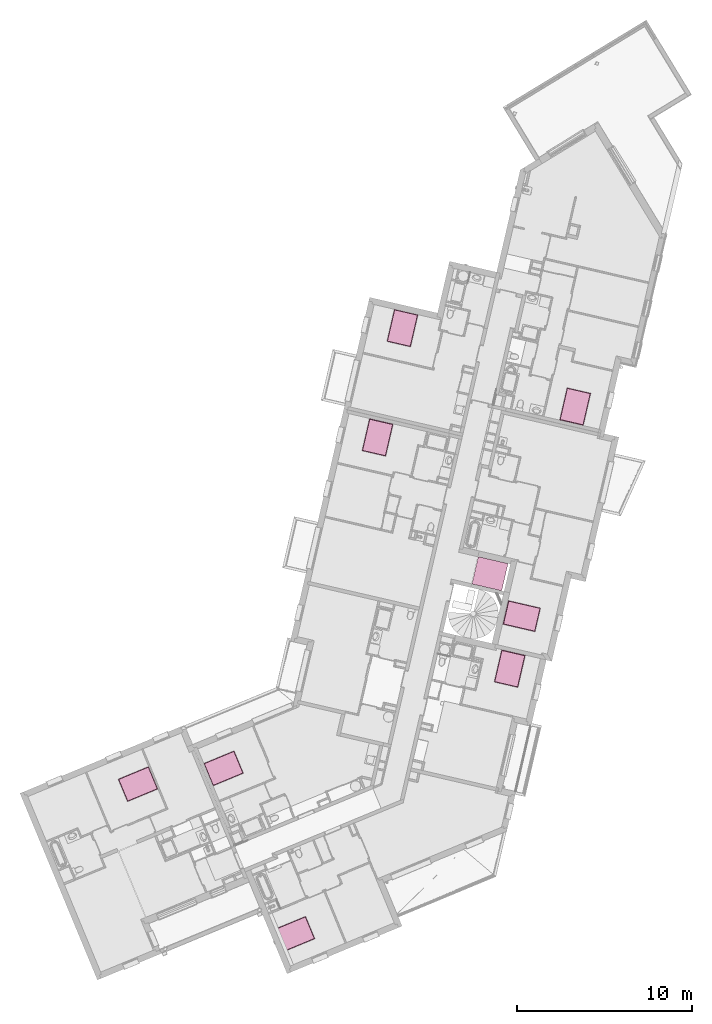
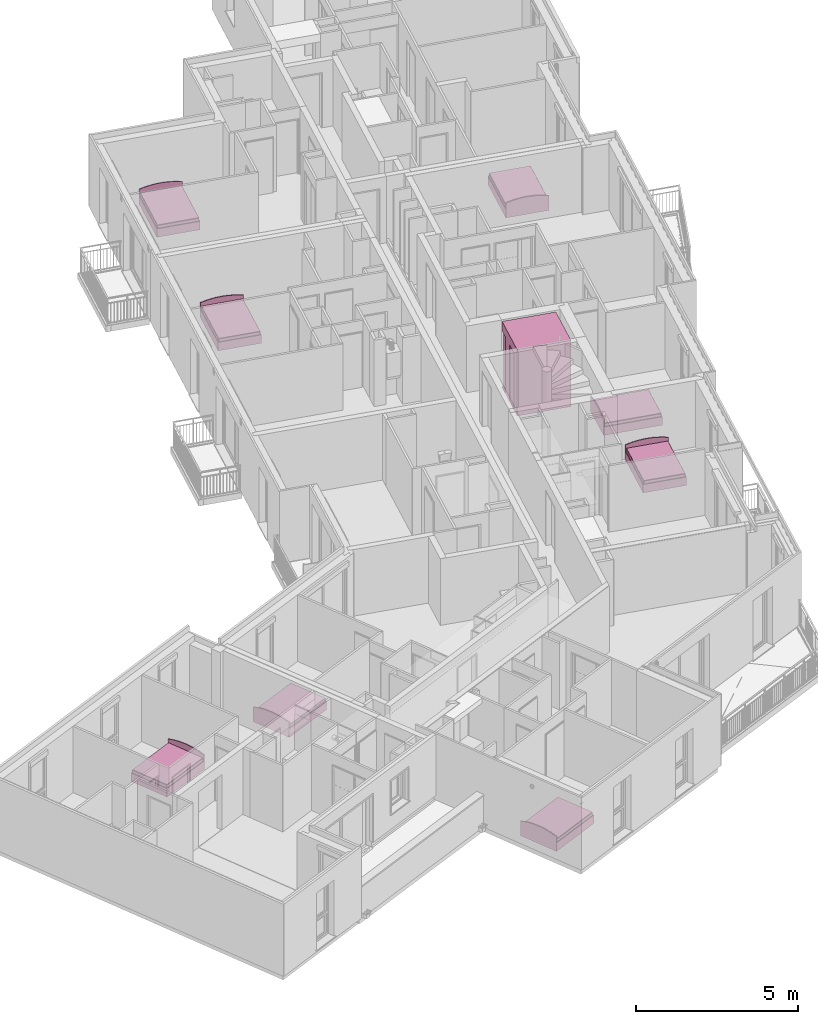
# One storey, part 84 of 91: 8 furnishings, 1 transport element.
"""IFC2X3 building model written with IfcOpenShell, lengths in metres."""

import ifcopenshell
import ifcopenshell.guid

model = None  # the IFC model being written
_history = None  # IfcOwnerHistory: only IFC2X3 demands one
_inside = {}  # id of a spatial element -> (the spatial element, [elements in it])
_under = {}  # id of a project, library or spatial element -> (it, [spatial elements below it])
_declared = {}  # id of a project -> (the project, [libraries it declares])
_typed = {}  # id of a type object -> (the type object, [elements of that type])
_made_of = {}  # id of a material, layer set ... -> (it, [elements and type objects made of it])


def new_model(schema):
    """Start an empty IFC model of exactly this schema.

    Asked for "IFC4X3", IfcOpenShell would pick the latest addendum, in which some entities
    have other attributes; the version numbers below select the first issue.
    IFC2X3 requires an IfcOwnerHistory on every rooted entity: one is made here for all.
    """
    global model, _history
    if schema == "IFC4X3":
        model = ifcopenshell.file(schema_version=(4, 3, 0, 0))
    else:
        model = ifcopenshell.file(schema=schema)
    _inside.clear()
    _under.clear()
    _declared.clear()
    _typed.clear()
    _made_of.clear()
    _history = None
    if model.schema == "IFC2X3":
        org = make("IfcOrganization", Name="unknown")
        user = make(
            "IfcPersonAndOrganization",
            ThePerson=make("IfcPerson", FamilyName="unknown"),
            TheOrganization=org,
        )
        app = make(
            "IfcApplication",
            ApplicationDeveloper=org,
            Version="unknown",
            ApplicationFullName="unknown",
            ApplicationIdentifier="unknown",
        )
        _history = make(
            "IfcOwnerHistory",
            OwningUser=user,
            OwningApplication=app,
            ChangeAction="ADDED",
            CreationDate=0,
        )
    return model


def make(cls, **values):
    """One entity of the class cls with the attributes given. An attribute that is None is left unset."""
    return model.create_entity(
        cls, **{name: value for name, value in values.items() if value is not None}
    )


def entity(cls, *values):
    """Any entity or typed value of the class cls, its attributes in the order of the schema. None: left unset."""
    e = model.create_entity(cls)
    for i, value in enumerate(values):
        if value is not None:
            e[i] = value
    return e


def rooted(cls, **values):
    """An entity with a GlobalId (a new one), such as an element, a storey or a relation."""
    return make(cls, GlobalId=ifcopenshell.guid.new(), OwnerHistory=_history, **values)


def si_unit(unit_type, name, prefix=None):
    """IfcSIUnit, for example si_unit("LENGTHUNIT", "METRE", prefix="MILLI")."""
    return make("IfcSIUnit", UnitType=unit_type, Prefix=prefix, Name=name)


def converted_unit(unit_type, name, factor, base, dimensions=None, offset=None):
    """IfcConversionBasedUnit, such as the inch: factor (a typed value) times the base unit."""
    return make(
        "IfcConversionBasedUnit"
        if offset is None
        else "IfcConversionBasedUnitWithOffset",
        ConversionOffset=offset,
        Dimensions=None
        if dimensions is None
        else entity("IfcDimensionalExponents", *dimensions),
        UnitType=unit_type,
        Name=name,
        ConversionFactor=make(
            "IfcMeasureWithUnit", ValueComponent=factor, UnitComponent=base
        ),
    )


def derived_unit(unit_type, elements):
    """IfcDerivedUnit: a product of units, each with its exponent."""
    return make(
        "IfcDerivedUnit",
        Elements=[
            make("IfcDerivedUnitElement", Unit=unit, Exponent=power)
            for unit, power in elements
        ],
        UnitType=unit_type,
    )


def money_unit(currency):
    """IfcMonetaryUnit."""
    return make("IfcMonetaryUnit", Currency=currency)


def assignment(units):
    """IfcUnitAssignment: the units of a project."""
    return None if units is None else make("IfcUnitAssignment", Units=units)


def point(xyz):
    """IfcCartesianPoint."""
    return None if xyz is None else make("IfcCartesianPoint", Coordinates=xyz)


def direction(xyz):
    """IfcDirection."""
    return None if xyz is None else make("IfcDirection", DirectionRatios=xyz)


def frame(location, z_axis=None, x_axis=None):
    """IfcAxis2Placement3D, a coordinate frame: its origin and axes. An axis left out is left unset."""
    return make(
        "IfcAxis2Placement3D",
        Location=point(location),
        Axis=direction(z_axis),
        RefDirection=direction(x_axis),
    )


def origin_with_axes():
    """The frame at (0, 0, 0) with the z axis (0, 0, 1) and the x axis (1, 0, 0) written out."""
    return frame((0.0, 0.0, 0.0), z_axis=(0.0, 0.0, 1.0), x_axis=(1.0, 0.0, 0.0))


def place(relative_to, where):
    """IfcLocalPlacement: puts the frame where relative to a parent placement (None: the world)."""
    return make(
        "IfcLocalPlacement", PlacementRelTo=relative_to, RelativePlacement=where
    )


def context(
    kind, dimensions, precision=None, world=None, true_north=None, identifier=None
):
    """IfcGeometricRepresentationContext, for example the 3D "Model" context."""
    return make(
        "IfcGeometricRepresentationContext",
        ContextIdentifier=identifier,
        ContextType=kind,
        CoordinateSpaceDimension=dimensions,
        Precision=precision,
        WorldCoordinateSystem=world,
        TrueNorth=true_north,
    )


def subcontext(parent, identifier, kind, view, scale=None):
    """IfcGeometricRepresentationSubContext, for example "Body" below "Model"."""
    return make(
        "IfcGeometricRepresentationSubContext",
        ContextIdentifier=identifier,
        ContextType=kind,
        ParentContext=parent,
        TargetScale=scale,
        TargetView=view,
    )


def project(units=None, contexts=None):
    """IfcProject with its units and contexts."""
    return rooted(
        "IfcProject",
        Name="project",
        RepresentationContexts=contexts,
        UnitsInContext=assignment(units),
    )


def spatial(cls, under=None, at=None, **own):
    """A site, building, storey or space (cls), placed at a placement, below another one or the project."""
    s = rooted(cls, ObjectPlacement=at, **own)
    if under is not None:
        _under.setdefault(under.id(), (under, []))[1].append(s)
    return s


def faces_of(points, faces, orient=None, outer=None):
    """IfcFace entities. A face is a list of loops; a loop is a list of indices into points, from 0.

    orient and outer hold one flag for each loop. By default every Orientation is true, the
    first loop of a face is its IfcFaceOuterBound and the others are IfcFaceBound.
    """
    made = []
    for i, loops in enumerate(faces):
        bounds = []
        for j, loop in enumerate(loops):
            is_outer = j == 0 if outer is None else outer[i][j]
            bounds.append(
                make(
                    "IfcFaceOuterBound" if is_outer else "IfcFaceBound",
                    Bound=make("IfcPolyLoop", Polygon=[points[k] for k in loop]),
                    Orientation=True if orient is None else orient[i][j],
                )
            )
        made.append(make("IfcFace", Bounds=bounds))
    return made


def faceted_brep(points, faces, orient=None, outer=None, voids=None):
    """IfcFacetedBrep: a solid bounded by flat faces; with voids (closed shells), ...WithVoids."""
    shared = [point(p) for p in points]
    hull = make("IfcClosedShell", CfsFaces=faces_of(shared, faces, orient, outer))
    if voids is None:
        return make("IfcFacetedBrep", Outer=hull)
    return make(
        "IfcFacetedBrepWithVoids",
        Outer=hull,
        Voids=[
            make(cls, CfsFaces=faces_of(shared, fs, o, b)) for cls, fs, o, b in voids
        ],
    )


def shape(context_of_items, identifier, shape_type, items):
    """IfcShapeRepresentation: the items that make up one representation, for example the "Body"."""
    return make(
        "IfcShapeRepresentation",
        ContextOfItems=context_of_items,
        RepresentationIdentifier=identifier,
        RepresentationType=shape_type,
        Items=items,
    )


def source(mapping_origin, context_of_items, identifier, shape_type, items):
    """IfcRepresentationMap: a shape defined once, which mapped items show again and again."""
    return make(
        "IfcRepresentationMap",
        MappingOrigin=mapping_origin,
        MappedRepresentation=shape(context_of_items, identifier, shape_type, items),
    )


def transform(
    local_origin,
    x_axis=None,
    y_axis=None,
    z_axis=None,
    scale=None,
    scale2=None,
    scale3=None,
    uniform=True,
):
    """IfcCartesianTransformationOperator3D, or its non-uniform kind. x_axis, y_axis, z_axis: its Axis1, 2, 3."""
    if uniform:
        return make(
            "IfcCartesianTransformationOperator3D",
            Axis1=direction(x_axis),
            Axis2=direction(y_axis),
            LocalOrigin=point(local_origin),
            Scale=scale,
            Axis3=direction(z_axis),
        )
    return make(
        "IfcCartesianTransformationOperator3DnonUniform",
        Axis1=direction(x_axis),
        Axis2=direction(y_axis),
        LocalOrigin=point(local_origin),
        Scale=scale,
        Axis3=direction(z_axis),
        Scale2=scale2,
        Scale3=scale3,
    )


def mapped(mapping_source, mapping_target):
    """IfcMappedItem: shows the shape of a source again, moved by a transform."""
    return make(
        "IfcMappedItem", MappingSource=mapping_source, MappingTarget=mapping_target
    )


def made_of(thing, what):
    """Note that an element or type object is made of a material, layer set ...; save() writes the relation."""
    if what is not None:
        _made_of.setdefault(what.id(), (what, []))[1].append(thing)
    return thing


def type_object(cls, material=None, **own):
    """A type object (cls), such as IfcWallType, which elements share."""
    return made_of(rooted(cls, **own), material)


def element(
    cls,
    number,
    at=None,
    inside=None,
    cuts=None,
    type_object=None,
    material=None,
    context=None,
    identifier="Body",
    shape_type=None,
    held_by="IfcProductDefinitionShape",
    body=None,
    shapes=None,
    **own,
):
    """One element of the class cls, such as IfcWall. Its Tag is "e" and its number.

    at: its placement. inside: the storey or other place that contains it. cuts: it is an
    opening in that element (IfcRelVoidsElement). A single representation is given by context,
    identifier, shape_type and body (its items); several are given by shapes. held_by: the class
    of the entity that holds the representations. save() writes the other relations.
    """
    e = rooted(cls, Tag="e%d" % number, ObjectPlacement=at, **own)
    if body is not None:
        shapes = [shape(context, identifier, shape_type, body)]
    if shapes is not None:
        e.Representation = make(held_by, Representations=shapes)
    if inside is not None:
        _inside.setdefault(inside.id(), (inside, []))[1].append(e)
    if cuts is not None:
        rooted(
            "IfcRelVoidsElement", RelatingBuildingElement=cuts, RelatedOpeningElement=e
        )
    if type_object is not None:
        _typed.setdefault(type_object.id(), (type_object, []))[1].append(e)
    return made_of(e, material)


def aggregate(whole, parts):
    """IfcRelAggregates: a whole, such as a stair, and the parts it consists of."""
    return rooted("IfcRelAggregates", RelatingObject=whole, RelatedObjects=parts)


def save(model, path):
    """Write the relations noted so far, then the file.

    IfcRelAggregates (storeys below a building ...), IfcRelContainedInSpatialStructure (elements
    in a storey), IfcRelDefinesByType, IfcRelAssociatesMaterial and IfcRelDeclares: one each for
    every whole, place, type object, material and project.
    """
    for whole, parts in _under.values():
        aggregate(whole, parts)
    for where, things in _inside.values():
        rooted(
            "IfcRelContainedInSpatialStructure",
            RelatedElements=things,
            RelatingStructure=where,
        )
    for kind, things in _typed.values():
        rooted("IfcRelDefinesByType", RelatedObjects=things, RelatingType=kind)
    for what, things in _made_of.values():
        rooted("IfcRelAssociatesMaterial", RelatedObjects=things, RelatingMaterial=what)
    for by, libraries in _declared.values():
        rooted("IfcRelDeclares", RelatingContext=by, RelatedDefinitions=libraries)
    model.write(path)


model = new_model("IFC2X3")

# Units and contexts
model_context = context("Model", 3, precision=1e-05, world=origin_with_axes(), true_north=direction((0.0, 1.0)))
body_context = subcontext(model_context, "Body", "Model", "MODEL_VIEW")
ifc_project = project(units=[si_unit("LENGTHUNIT", "METRE"), si_unit("AREAUNIT", "SQUARE_METRE"), si_unit("VOLUMEUNIT", "CUBIC_METRE"), converted_unit("PLANEANGLEUNIT", "DEGREE", entity("IfcPlaneAngleMeasure", 0.0174532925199), si_unit("PLANEANGLEUNIT", "RADIAN"), dimensions=[0, 0, 0, 0, 0, 0, 0]), si_unit("SOLIDANGLEUNIT", "STERADIAN"), money_unit("EUR"), converted_unit("TIMEUNIT", "Year", entity("IfcTimeMeasure", 31556926.0), si_unit("TIMEUNIT", "SECOND"), dimensions=[0, 0, 1, 0, 0, 0, 0]), si_unit("MASSUNIT", "GRAM", prefix="KILO"), si_unit("THERMODYNAMICTEMPERATUREUNIT", "DEGREE_CELSIUS"), si_unit("LUMINOUSINTENSITYUNIT", "LUMEN"), si_unit("ENERGYUNIT", "JOULE", prefix="MEGA"), derived_unit("THERMALCONDUCTANCEUNIT", [(si_unit("POWERUNIT", "WATT"), 1), (si_unit("LENGTHUNIT", "METRE"), -1), (si_unit("THERMODYNAMICTEMPERATUREUNIT", "KELVIN"), -1)]), derived_unit("SPECIFICHEATCAPACITYUNIT", [(si_unit("ENERGYUNIT", "JOULE"), 1), (si_unit("MASSUNIT", "GRAM", prefix="KILO"), -1), (si_unit("THERMODYNAMICTEMPERATUREUNIT", "KELVIN"), -1)]), derived_unit("MASSDENSITYUNIT", [(si_unit("MASSUNIT", "GRAM", prefix="KILO"), 1), (si_unit("VOLUMEUNIT", "CUBIC_METRE"), -1)])], contexts=[model_context])

# Site, building, storey
site_placement = place(None, origin_with_axes())
site = spatial("IfcSite", under=ifc_project, at=site_placement, Name="Site", CompositionType="ELEMENT")
building_placement = place(site_placement, origin_with_axes())
building = spatial("IfcBuilding", under=site, at=building_placement, Name="Bâtiment", CompositionType="ELEMENT")
storey_placement = place(building_placement, frame((0.0, 0.0, 5.44), z_axis=(0.0, 0.0, 1.0), x_axis=(1.0, 0.0, 0.0)))
storey = spatial("IfcBuildingStorey", under=building, at=storey_placement, Name="R+2", CompositionType="ELEMENT", Elevation=5.44)

# Furnishings
furniture_type = type_object("IfcFurnitureType", Name="Lit double 23", AssemblyPlace="NOTDEFINED")
shared_shape_1 = source(origin_with_axes(), body_context, "Body", "Brep", [
    faceted_brep([(0.0, 1.9, 0.0), (1.4, 1.9, 0.0), (1.4, 1.87, 0.0), (0.0, 1.87, 0.0), (0.0, 1.9, 0.56), (0.229826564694, 1.9, 0.615389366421), (0.463857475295, 1.9, 0.64882235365), (0.7, 1.9, 0.66), (0.936142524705, 1.9, 0.64882235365), (1.17017343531, 1.9, 0.615389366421), (1.4, 1.9, 0.56), (1.4, 1.9, 0.5599), (1.4, 1.87, 0.5599), (1.4, 1.87, 0.56), (1.17017343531, 1.87, 0.615389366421), (0.936142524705, 1.87, 0.64882235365), (0.7, 1.87, 0.66), (0.463857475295, 1.87, 0.64882235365), (0.229826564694, 1.87, 0.615389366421), (0.0, 1.87, 0.56)], [[[0, 1, 2, 3]], [[0, 4, 5, 6, 7, 8, 9, 10, 11, 1]], [[1, 11, 12, 2]], [[3, 2, 12, 13, 14, 15, 16, 17, 18, 19]], [[4, 0, 3, 19]], [[5, 4, 19, 18]], [[6, 5, 18, 17]], [[7, 6, 17, 16]], [[8, 7, 16, 15]], [[9, 8, 15, 14]], [[10, 9, 14, 13]], [[11, 10, 13, 12]]]),
    faceted_brep([(1.4, 0.0, 0.0), (0.0, 0.0, 0.0), (0.0, 1.87, 0.0), (1.4, 1.87, 0.0), (1.4, 0.0, 0.32), (0.0, 0.0, 0.32), (0.0, 1.87, 0.32), (1.4, 1.87, 0.32)], [[[0, 1, 2, 3]], [[1, 0, 4, 5]], [[2, 1, 5, 6]], [[3, 2, 6, 7]], [[0, 3, 7, 4]], [[5, 4, 7, 6]]]),
    faceted_brep([(0.02, 0.04, 0.35), (0.02, 1.85, 0.35), (0.0215224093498, 1.85765366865, 0.35), (0.0258578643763, 1.86414213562, 0.35), (0.0323463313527, 1.86847759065, 0.35), (0.04, 1.87, 0.35), (1.36, 1.87, 0.35), (1.36765366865, 1.86847759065, 0.35), (1.37414213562, 1.86414213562, 0.35), (1.37847759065, 1.85765366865, 0.35), (1.38, 1.85, 0.35), (1.38, 0.04, 0.35), (1.37847759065, 0.0323463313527, 0.35), (1.37414213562, 0.0258578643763, 0.35), (1.36765366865, 0.0215224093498, 0.35), (1.36, 0.02, 0.35), (0.04, 0.02, 0.35), (0.0323463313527, 0.0215224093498, 0.35), (0.0258578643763, 0.0258578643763, 0.35), (0.0215224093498, 0.0323463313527, 0.35), (0.0199999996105, 0.0400000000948, 0.42), (0.0199999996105, 1.84999999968, 0.42), (0.0215224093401, 1.85765366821, 0.42), (0.0258578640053, 1.86414213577, 0.42), (0.0323463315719, 1.86847759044, 0.42), (0.0400000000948, 1.87000000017, 0.42), (1.36000000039, 1.87000000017, 0.42), (1.36765366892, 1.86847759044, 0.42), (1.37414213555, 1.86414213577, 0.42), (1.37847759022, 1.85765366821, 0.42), (1.37999999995, 1.84999999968, 0.42), (1.37999999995, 0.0400000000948, 0.42), (1.37847759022, 0.0323463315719, 0.42), (1.37414213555, 0.0258578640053, 0.42), (1.36765366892, 0.0215224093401, 0.42), (1.36000000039, 0.0199999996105, 0.42), (0.0400000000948, 0.0199999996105, 0.42), (0.0323463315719, 0.0215224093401, 0.42), (0.0258578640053, 0.0258578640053, 0.42), (0.0215224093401, 0.0323463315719, 0.42), (0.0215224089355, 0.0401499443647, 0.427653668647), (0.0215224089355, 1.84985005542, 0.427653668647), (0.0229564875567, 1.85705965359, 0.427653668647), (0.0269554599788, 1.8630445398, 0.427653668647), (0.0329403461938, 1.86704351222, 0.427653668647), (0.0401499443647, 1.86847759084, 0.427653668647), (1.35985005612, 1.86847759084, 0.427653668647), (1.36705965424, 1.86704351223, 0.427653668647), (1.37304453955, 1.86304453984, 0.427653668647), (1.377043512, 1.85705965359, 0.427653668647), (1.37847759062, 1.84985005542, 0.427653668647), (1.37847759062, 0.0401499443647, 0.427653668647), (1.377043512, 0.0329403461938, 0.427653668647), (1.37304453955, 0.0269554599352, 0.427653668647), (1.36705965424, 0.0229564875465, 0.427653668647), (1.35985005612, 0.0215224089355, 0.427653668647), (0.0401499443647, 0.0215224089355, 0.427653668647), (0.0329403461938, 0.0229564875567, 0.427653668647), (0.0269554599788, 0.0269554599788, 0.427653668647), (0.0229564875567, 0.0329403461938, 0.427653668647), (0.0323463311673, 0.0412160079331, 0.43847759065), (0.0323463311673, 1.84878399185, 0.43847759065), (0.0331523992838, 1.85283636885, 0.43847759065), (0.0347590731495, 1.85524092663, 0.43847759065), (0.0371636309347, 1.8568476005, 0.43847759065), (0.0412160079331, 1.85765366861, 0.43847759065), (1.35878399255, 1.85765366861, 0.43847759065), (1.36283636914, 1.85684760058, 0.43847759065), (1.36524092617, 1.85524092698, 0.43847759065), (1.36684760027, 1.85283636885, 0.43847759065), (1.36765366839, 1.84878399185, 0.43847759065), (1.36765366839, 0.0412160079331, 0.43847759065), (1.36684760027, 0.0371636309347, 0.43847759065), (1.36524092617, 0.0347590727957, 0.43847759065), (1.36283636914, 0.0331523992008, 0.43847759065), (1.35878399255, 0.0323463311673, 0.43847759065), (0.0412160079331, 0.0323463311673, 0.43847759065), (0.0371636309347, 0.0331523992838, 0.43847759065), (0.0347590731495, 0.0347590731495, 0.43847759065), (0.0331523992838, 0.0371636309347, 0.43847759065), (0.0400000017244, 0.0419698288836, 0.44000000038), (0.0400000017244, 1.8480301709, 0.44000000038), (0.0403268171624, 1.84967318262, 0.44000000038), (0.0399999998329, 1.84999999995, 0.439923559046), (0.0419698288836, 1.84999999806, 0.44000000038), (1.3580301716, 1.84999999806, 0.44000000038), (1.35967318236, 1.84967318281, 0.44000000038), (1.35999999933, 1.84999999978, 0.439923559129), (1.35999999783, 1.8480301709, 0.44000000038), (1.35999999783, 0.0419698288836, 0.44000000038), (1.35967318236, 0.0403268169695, 0.44000000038), (1.35999999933, 0.0399999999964, 0.439923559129), (1.3580301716, 0.0400000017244, 0.44000000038), (0.0419698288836, 0.0400000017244, 0.44000000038), (0.0403268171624, 0.0403268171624, 0.44000000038), (0.0399999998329, 0.0399999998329, 0.439923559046)], [[[0, 1, 2, 3, 4, 5, 6, 7, 8, 9, 10, 11, 12, 13, 14, 15, 16, 17, 18, 19]], [[1, 0, 20, 21]], [[2, 1, 21, 22]], [[3, 2, 22, 23]], [[4, 3, 23, 24]], [[5, 4, 24, 25]], [[6, 5, 25, 26]], [[7, 6, 26, 27]], [[8, 7, 27, 28]], [[9, 8, 28, 29]], [[10, 9, 29, 30]], [[11, 10, 30, 31]], [[12, 11, 31, 32]], [[13, 12, 32, 33]], [[14, 13, 33, 34]], [[15, 14, 34, 35]], [[16, 15, 35, 36]], [[17, 16, 36, 37]], [[18, 17, 37, 38]], [[19, 18, 38, 39]], [[0, 19, 39, 20]], [[21, 20, 40, 41]], [[22, 21, 41, 42]], [[23, 22, 42, 43]], [[24, 23, 43, 44]], [[25, 24, 44, 45]], [[26, 25, 45, 46]], [[27, 26, 46, 47]], [[28, 27, 47, 48]], [[29, 28, 48, 49]], [[30, 29, 49, 50]], [[31, 30, 50, 51]], [[32, 31, 51, 52]], [[33, 32, 52, 53]], [[34, 33, 53, 54]], [[35, 34, 54, 55]], [[36, 35, 55, 56]], [[37, 36, 56, 57]], [[38, 37, 57, 58]], [[39, 38, 58, 59]], [[20, 39, 59, 40]], [[41, 40, 60, 61]], [[42, 41, 61, 62]], [[43, 42, 62, 63]], [[44, 43, 63, 64]], [[45, 44, 64, 65]], [[46, 45, 65, 66]], [[47, 46, 66, 67]], [[48, 47, 67, 68]], [[49, 48, 68, 69]], [[50, 49, 69, 70]], [[51, 50, 70, 71]], [[52, 51, 71, 72]], [[53, 52, 72, 73]], [[54, 53, 73, 74]], [[55, 54, 74, 75]], [[56, 55, 75, 76]], [[57, 56, 76, 77]], [[58, 57, 77, 78]], [[59, 58, 78, 79]], [[40, 59, 79, 60]], [[61, 60, 80, 81]], [[62, 61, 81, 82, 83]], [[63, 62, 83]], [[64, 63, 83]], [[65, 64, 83, 82, 84]], [[66, 65, 84, 85]], [[67, 66, 85, 86, 87]], [[68, 67, 87]], [[69, 68, 87]], [[70, 69, 87, 86, 88]], [[71, 70, 88, 89]], [[72, 71, 89, 90, 91]], [[73, 72, 91]], [[74, 73, 91]], [[75, 74, 91, 90, 92]], [[76, 75, 92, 93]], [[77, 76, 93, 94, 95]], [[78, 77, 95]], [[79, 78, 95]], [[60, 79, 95, 94, 80]], [[81, 80, 94, 93, 92, 90, 89, 88, 86, 85, 84, 82]]]),
    faceted_brep([(0.02, 0.04, 0.35), (0.0215224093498, 0.0323463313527, 0.35), (0.0258578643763, 0.0258578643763, 0.35), (0.0323463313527, 0.0215224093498, 0.35), (0.04, 0.02, 0.35), (1.36, 0.02, 0.35), (1.36765366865, 0.0215224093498, 0.35), (1.37414213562, 0.0258578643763, 0.35), (1.37847759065, 0.0323463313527, 0.35), (1.38, 0.04, 0.35), (1.38, 1.85, 0.35), (1.37847759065, 1.85765366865, 0.35), (1.37414213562, 1.86414213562, 0.35), (1.36765366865, 1.86847759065, 0.35), (1.36, 1.87, 0.35), (0.04, 1.87, 0.35), (0.0323463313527, 1.86847759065, 0.35), (0.0258578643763, 1.86414213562, 0.35), (0.0215224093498, 1.85765366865, 0.35), (0.02, 1.85, 0.35), (0.0199999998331, 0.0400000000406, 0.32), (0.0215224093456, 0.0323463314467, 0.32), (0.0258578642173, 0.0258578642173, 0.32), (0.0323463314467, 0.0215224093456, 0.32), (0.0400000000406, 0.0199999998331, 0.32), (1.36000000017, 0.0199999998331, 0.32), (1.36765366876, 0.0215224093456, 0.32), (1.37414213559, 0.0258578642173, 0.32), (1.37847759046, 0.0323463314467, 0.32), (1.37999999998, 0.0400000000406, 0.32), (1.37999999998, 1.84999999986, 0.32), (1.37847759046, 1.85765366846, 0.32), (1.37414213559, 1.86414213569, 0.32), (1.36765366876, 1.86847759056, 0.32), (1.36000000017, 1.87000000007, 0.32), (0.0400000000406, 1.87000000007, 0.32), (0.0323463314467, 1.86847759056, 0.32), (0.0258578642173, 1.86414213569, 0.32), (0.0215224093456, 1.85765366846, 0.32), (0.0199999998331, 1.84999999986, 0.32)], [[[0, 1, 2, 3, 4, 5, 6, 7, 8, 9, 10, 11, 12, 13, 14, 15, 16, 17, 18, 19]], [[0, 20, 21, 1]], [[1, 21, 22, 2]], [[2, 22, 23, 3]], [[3, 23, 24, 4]], [[4, 24, 25, 5]], [[5, 25, 26, 6]], [[6, 26, 27, 7]], [[7, 27, 28, 8]], [[8, 28, 29, 9]], [[9, 29, 30, 10]], [[10, 30, 31, 11]], [[11, 31, 32, 12]], [[12, 32, 33, 13]], [[13, 33, 34, 14]], [[14, 34, 35, 15]], [[15, 35, 36, 16]], [[16, 36, 37, 17]], [[17, 37, 38, 18]], [[18, 38, 39, 19]], [[19, 39, 20, 0]], [[20, 39, 38, 37, 36, 35, 34, 33, 32, 31, 30, 29, 28, 27, 26, 25, 24, 23, 22, 21]]]),
])
for number, where, z_axis, x_axis, name in (
    (1, (-18.5614836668, -26.2425264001, 0.0), (0.0, 0.0, 1.0), (-0.383112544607, 0.923701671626, 0.0), "MOB-002"),
    (2, (-14.4681545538, 7.8483588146, 0.0), (0.0, 0.0, 1.0), (0.974387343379, -0.224876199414, 0.0), "MOB-002"),
    (3, (-6.00214759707, -8.72138199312, 0.0), (0.0, 0.0, 1.0), (0.224876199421, 0.974387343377, 0.0), "MOB-002"),
    (4, (-8.34470960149, -11.5876825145, 0.0), (0.0, 0.0, 1.0), (0.974387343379, -0.224876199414, 0.0), "MOB-002"),
    (5, (-22.6409793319, -16.7982077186, 0.0), (0.0, 0.0, 1.0), (-0.383112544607, 0.923701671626, 0.0), "MOB-002"),
    (6, (-15.8879577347, 1.60742158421, 0.0), (0.0, 0.0, 1.0), (0.974387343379, -0.224876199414, 0.0), "MOB-002"),
):
    element("IfcFurnishingElement", number, at=place(storey_placement, frame(where, z_axis=z_axis, x_axis=x_axis)), inside=storey, type_object=furniture_type, Name=name, ObjectType="BED", context=body_context, shape_type="MappedRepresentation", body=[
        mapped(shared_shape_1, transform((0.0, 0.0, 0.0))),
    ])
shared_shape_2 = source(origin_with_axes(), body_context, "Body", "Brep", [
    faceted_brep([(0.0, 1.9, 0.0), (0.0, 1.87, 0.0), (-1.4, 1.87, 0.0), (-1.4, 1.9, 0.0), (0.0, 1.9, 0.56), (0.0, 1.87, 0.56), (-0.229826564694, 1.87, 0.615389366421), (-0.463857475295, 1.87, 0.64882235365), (-0.7, 1.87, 0.66), (-0.936142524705, 1.87, 0.64882235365), (-1.17017343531, 1.87, 0.615389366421), (-1.4, 1.87, 0.56), (-1.4, 1.87, 0.5599), (-1.4, 1.9, 0.5599), (-1.4, 1.9, 0.56), (-1.17017343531, 1.9, 0.615389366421), (-0.936142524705, 1.9, 0.64882235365), (-0.7, 1.9, 0.66), (-0.463857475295, 1.9, 0.64882235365), (-0.229826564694, 1.9, 0.615389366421)], [[[0, 1, 2, 3]], [[4, 5, 1, 0]], [[1, 5, 6, 7, 8, 9, 10, 11, 12, 2]], [[3, 2, 12, 13]], [[0, 3, 13, 14, 15, 16, 17, 18, 19, 4]], [[19, 6, 5, 4]], [[18, 7, 6, 19]], [[17, 8, 7, 18]], [[16, 9, 8, 17]], [[15, 10, 9, 16]], [[14, 11, 10, 15]], [[13, 12, 11, 14]]]),
    faceted_brep([(-1.4, 0.0, 0.0), (-1.4, 1.87, 0.0), (0.0, 1.87, 0.0), (0.0, 0.0, 0.0), (-1.4, 0.0, 0.32), (-1.4, 1.87, 0.32), (0.0, 1.87, 0.32), (0.0, 0.0, 0.32)], [[[0, 1, 2, 3]], [[0, 4, 5, 1]], [[1, 5, 6, 2]], [[2, 6, 7, 3]], [[3, 7, 4, 0]], [[7, 6, 5, 4]]]),
    faceted_brep([(-0.02, 0.04, 0.35), (-0.0215224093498, 0.0323463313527, 0.35), (-0.0258578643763, 0.0258578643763, 0.35), (-0.0323463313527, 0.0215224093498, 0.35), (-0.04, 0.02, 0.35), (-1.36, 0.02, 0.35), (-1.36765366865, 0.0215224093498, 0.35), (-1.37414213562, 0.0258578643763, 0.35), (-1.37847759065, 0.0323463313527, 0.35), (-1.38, 0.04, 0.35), (-1.38, 1.85, 0.35), (-1.37847759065, 1.85765366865, 0.35), (-1.37414213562, 1.86414213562, 0.35), (-1.36765366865, 1.86847759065, 0.35), (-1.36, 1.87, 0.35), (-0.04, 1.87, 0.35), (-0.0323463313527, 1.86847759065, 0.35), (-0.0258578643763, 1.86414213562, 0.35), (-0.0215224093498, 1.85765366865, 0.35), (-0.02, 1.85, 0.35), (-0.0199999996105, 0.0400000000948, 0.42), (-0.0215224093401, 0.0323463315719, 0.42), (-0.0258578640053, 0.0258578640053, 0.42), (-0.0323463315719, 0.0215224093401, 0.42), (-0.0400000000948, 0.0199999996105, 0.42), (-1.36000000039, 0.0199999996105, 0.42), (-1.36765366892, 0.0215224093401, 0.42), (-1.37414213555, 0.0258578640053, 0.42), (-1.37847759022, 0.0323463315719, 0.42), (-1.37999999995, 0.0400000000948, 0.42), (-1.37999999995, 1.84999999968, 0.42), (-1.37847759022, 1.85765366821, 0.42), (-1.37414213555, 1.86414213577, 0.42), (-1.36765366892, 1.86847759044, 0.42), (-1.36000000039, 1.87000000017, 0.42), (-0.0400000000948, 1.87000000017, 0.42), (-0.0323463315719, 1.86847759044, 0.42), (-0.0258578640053, 1.86414213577, 0.42), (-0.0215224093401, 1.85765366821, 0.42), (-0.0199999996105, 1.84999999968, 0.42), (-0.0215224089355, 0.0401499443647, 0.427653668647), (-0.0229564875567, 0.0329403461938, 0.427653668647), (-0.0269554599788, 0.0269554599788, 0.427653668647), (-0.0329403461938, 0.0229564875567, 0.427653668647), (-0.0401499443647, 0.0215224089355, 0.427653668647), (-1.35985005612, 0.0215224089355, 0.427653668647), (-1.36705965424, 0.0229564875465, 0.427653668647), (-1.37304453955, 0.0269554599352, 0.427653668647), (-1.377043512, 0.0329403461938, 0.427653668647), (-1.37847759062, 0.0401499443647, 0.427653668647), (-1.37847759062, 1.84985005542, 0.427653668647), (-1.377043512, 1.85705965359, 0.427653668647), (-1.37304453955, 1.86304453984, 0.427653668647), (-1.36705965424, 1.86704351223, 0.427653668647), (-1.35985005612, 1.86847759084, 0.427653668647), (-0.0401499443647, 1.86847759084, 0.427653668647), (-0.0329403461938, 1.86704351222, 0.427653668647), (-0.0269554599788, 1.8630445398, 0.427653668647), (-0.0229564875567, 1.85705965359, 0.427653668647), (-0.0215224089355, 1.84985005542, 0.427653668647), (-0.0323463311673, 0.0412160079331, 0.43847759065), (-0.0331523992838, 0.0371636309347, 0.43847759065), (-0.0347590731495, 0.0347590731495, 0.43847759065), (-0.0371636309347, 0.0331523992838, 0.43847759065), (-0.0412160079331, 0.0323463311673, 0.43847759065), (-1.35878399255, 0.0323463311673, 0.43847759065), (-1.36283636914, 0.0331523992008, 0.43847759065), (-1.36524092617, 0.0347590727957, 0.43847759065), (-1.36684760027, 0.0371636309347, 0.43847759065), (-1.36765366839, 0.0412160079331, 0.43847759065), (-1.36765366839, 1.84878399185, 0.43847759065), (-1.36684760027, 1.85283636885, 0.43847759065), (-1.36524092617, 1.85524092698, 0.43847759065), (-1.36283636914, 1.85684760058, 0.43847759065), (-1.35878399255, 1.85765366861, 0.43847759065), (-0.0412160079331, 1.85765366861, 0.43847759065), (-0.0371636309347, 1.8568476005, 0.43847759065), (-0.0347590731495, 1.85524092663, 0.43847759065), (-0.0331523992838, 1.85283636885, 0.43847759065), (-0.0323463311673, 1.84878399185, 0.43847759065), (-0.0400000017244, 0.0419698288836, 0.44000000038), (-0.0403268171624, 0.0403268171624, 0.44000000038), (-0.0399999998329, 0.0399999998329, 0.439923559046), (-0.0419698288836, 0.0400000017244, 0.44000000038), (-1.3580301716, 0.0400000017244, 0.44000000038), (-1.35967318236, 0.0403268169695, 0.44000000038), (-1.35999999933, 0.0399999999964, 0.439923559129), (-1.35999999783, 0.0419698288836, 0.44000000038), (-1.35999999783, 1.8480301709, 0.44000000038), (-1.35967318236, 1.84967318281, 0.44000000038), (-1.35999999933, 1.84999999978, 0.439923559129), (-1.3580301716, 1.84999999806, 0.44000000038), (-0.0419698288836, 1.84999999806, 0.44000000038), (-0.0403268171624, 1.84967318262, 0.44000000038), (-0.0399999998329, 1.84999999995, 0.439923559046), (-0.0400000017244, 1.8480301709, 0.44000000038)], [[[0, 1, 2, 3, 4, 5, 6, 7, 8, 9, 10, 11, 12, 13, 14, 15, 16, 17, 18, 19]], [[0, 20, 21, 1]], [[1, 21, 22, 2]], [[2, 22, 23, 3]], [[3, 23, 24, 4]], [[4, 24, 25, 5]], [[5, 25, 26, 6]], [[6, 26, 27, 7]], [[7, 27, 28, 8]], [[8, 28, 29, 9]], [[9, 29, 30, 10]], [[10, 30, 31, 11]], [[11, 31, 32, 12]], [[12, 32, 33, 13]], [[13, 33, 34, 14]], [[14, 34, 35, 15]], [[15, 35, 36, 16]], [[16, 36, 37, 17]], [[17, 37, 38, 18]], [[18, 38, 39, 19]], [[19, 39, 20, 0]], [[20, 40, 41, 21]], [[21, 41, 42, 22]], [[22, 42, 43, 23]], [[23, 43, 44, 24]], [[24, 44, 45, 25]], [[25, 45, 46, 26]], [[26, 46, 47, 27]], [[27, 47, 48, 28]], [[28, 48, 49, 29]], [[29, 49, 50, 30]], [[30, 50, 51, 31]], [[31, 51, 52, 32]], [[32, 52, 53, 33]], [[33, 53, 54, 34]], [[34, 54, 55, 35]], [[35, 55, 56, 36]], [[36, 56, 57, 37]], [[37, 57, 58, 38]], [[38, 58, 59, 39]], [[39, 59, 40, 20]], [[40, 60, 61, 41]], [[41, 61, 62, 42]], [[42, 62, 63, 43]], [[43, 63, 64, 44]], [[44, 64, 65, 45]], [[45, 65, 66, 46]], [[46, 66, 67, 47]], [[47, 67, 68, 48]], [[48, 68, 69, 49]], [[49, 69, 70, 50]], [[50, 70, 71, 51]], [[51, 71, 72, 52]], [[52, 72, 73, 53]], [[53, 73, 74, 54]], [[54, 74, 75, 55]], [[55, 75, 76, 56]], [[56, 76, 77, 57]], [[57, 77, 78, 58]], [[58, 78, 79, 59]], [[59, 79, 60, 40]], [[60, 80, 81, 82, 61]], [[61, 82, 62]], [[62, 82, 63]], [[63, 82, 81, 83, 64]], [[64, 83, 84, 65]], [[65, 84, 85, 86, 66]], [[66, 86, 67]], [[67, 86, 68]], [[68, 86, 85, 87, 69]], [[69, 87, 88, 70]], [[70, 88, 89, 90, 71]], [[71, 90, 72]], [[72, 90, 73]], [[73, 90, 89, 91, 74]], [[74, 91, 92, 75]], [[75, 92, 93, 94, 76]], [[76, 94, 77]], [[77, 94, 78]], [[78, 94, 93, 95, 79]], [[79, 95, 80, 60]], [[95, 93, 92, 91, 89, 88, 87, 85, 84, 83, 81, 80]]]),
    faceted_brep([(-0.02, 0.04, 0.35), (-0.02, 1.85, 0.35), (-0.0215224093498, 1.85765366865, 0.35), (-0.0258578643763, 1.86414213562, 0.35), (-0.0323463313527, 1.86847759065, 0.35), (-0.04, 1.87, 0.35), (-1.36, 1.87, 0.35), (-1.36765366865, 1.86847759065, 0.35), (-1.37414213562, 1.86414213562, 0.35), (-1.37847759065, 1.85765366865, 0.35), (-1.38, 1.85, 0.35), (-1.38, 0.04, 0.35), (-1.37847759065, 0.0323463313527, 0.35), (-1.37414213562, 0.0258578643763, 0.35), (-1.36765366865, 0.0215224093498, 0.35), (-1.36, 0.02, 0.35), (-0.04, 0.02, 0.35), (-0.0323463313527, 0.0215224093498, 0.35), (-0.0258578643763, 0.0258578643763, 0.35), (-0.0215224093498, 0.0323463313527, 0.35), (-0.0199999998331, 0.0400000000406, 0.32), (-0.0199999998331, 1.84999999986, 0.32), (-0.0215224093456, 1.85765366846, 0.32), (-0.0258578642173, 1.86414213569, 0.32), (-0.0323463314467, 1.86847759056, 0.32), (-0.0400000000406, 1.87000000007, 0.32), (-1.36000000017, 1.87000000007, 0.32), (-1.36765366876, 1.86847759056, 0.32), (-1.37414213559, 1.86414213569, 0.32), (-1.37847759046, 1.85765366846, 0.32), (-1.37999999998, 1.84999999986, 0.32), (-1.37999999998, 0.0400000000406, 0.32), (-1.37847759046, 0.0323463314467, 0.32), (-1.37414213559, 0.0258578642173, 0.32), (-1.36765366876, 0.0215224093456, 0.32), (-1.36000000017, 0.0199999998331, 0.32), (-0.0400000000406, 0.0199999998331, 0.32), (-0.0323463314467, 0.0215224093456, 0.32), (-0.0258578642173, 0.0258578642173, 0.32), (-0.0215224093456, 0.0323463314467, 0.32)], [[[0, 1, 2, 3, 4, 5, 6, 7, 8, 9, 10, 11, 12, 13, 14, 15, 16, 17, 18, 19]], [[1, 0, 20, 21]], [[2, 1, 21, 22]], [[3, 2, 22, 23]], [[4, 3, 23, 24]], [[5, 4, 24, 25]], [[6, 5, 25, 26]], [[7, 6, 26, 27]], [[8, 7, 27, 28]], [[9, 8, 28, 29]], [[10, 9, 29, 30]], [[11, 10, 30, 31]], [[12, 11, 31, 32]], [[13, 12, 32, 33]], [[14, 13, 33, 34]], [[15, 14, 34, 35]], [[16, 15, 35, 36]], [[17, 16, 36, 37]], [[18, 17, 37, 38]], [[19, 18, 38, 39]], [[0, 19, 39, 20]], [[20, 39, 38, 37, 36, 35, 34, 33, 32, 31, 30, 29, 28, 27, 26, 25, 24, 23, 22, 21]]]),
])
for number, where, z_axis, x_axis, name in (
    (7, (-29.2696933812, -18.4192607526, 0.0), (0.0, 0.0, 1.0), (0.383112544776, -0.923701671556, 0.0), "MOB-002"),
    (8, (-4.18389499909, 5.21324862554, 0.0), (0.0, 0.0, 1.0), (-0.974387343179, 0.224876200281, 0.0), "MOB-002"),
):
    element("IfcFurnishingElement", number, at=place(storey_placement, frame(where, z_axis=z_axis, x_axis=x_axis)), inside=storey, type_object=furniture_type, Name=name, ObjectType="BED", context=body_context, shape_type="MappedRepresentation", body=[
        mapped(shared_shape_2, transform((0.0, 0.0, 0.0))),
    ])

# Transport element
transport_element_type = type_object("IfcTransportElementType", Name="Ascenseur 23", PredefinedType="ELEVATOR")
shared_shape_3 = source(origin_with_axes(), body_context, "Body", "Brep", [
    faceted_brep([(0.95, 0.21, 0.0), (0.5, 0.21, 0.0), (0.5, 0.21, 2.1), (0.95, 0.21, 2.1), (0.95, 0.19, 0.0), (0.5, 0.19, 0.0), (0.5, 0.19, 2.1), (0.95, 0.19, 2.1)], [[[0, 1, 2, 3]], [[1, 0, 4, 5]], [[2, 1, 5, 6]], [[3, 2, 6, 7]], [[0, 3, 7, 4]], [[5, 4, 7, 6]]]),
    faceted_brep([(1.4, 0.23, 0.0), (0.95, 0.23, 0.0), (0.95, 0.23, 2.1), (1.4, 0.23, 2.1), (1.4, 0.21, 0.0), (0.95, 0.21, 0.0), (0.95, 0.21, 2.1), (1.4, 0.21, 2.1)], [[[0, 1, 2, 3]], [[1, 0, 4, 5]], [[2, 1, 5, 6]], [[3, 2, 6, 7]], [[0, 3, 7, 4]], [[5, 4, 7, 6]]]),
    faceted_brep([(1.4, 0.27, 0.0), (1.669, 0.27, 0.0), (1.669, 1.85, 0.0), (0.231, 1.85, 0.0), (0.231, 0.27, 0.0), (0.5, 0.27, 0.0), (0.5, 0.23, 0.0), (0.151, 0.23, 0.0), (0.151, 1.93, 0.0), (1.749, 1.93, 0.0), (1.749, 0.19, 0.0), (1.4, 0.19, 0.0), (0.231, 0.27, 2.4), (1.669, 0.27, 2.4), (1.4, 0.27, 2.1), (0.5, 0.27, 2.1), (1.669, 1.85, 2.4), (0.231, 1.85, 2.4), (0.5, 0.23, 2.1), (0.151, 0.23, 2.1), (0.151, 0.19, 2.1), (0.151, 0.19, 2.4), (0.151, 1.93, 2.4), (1.749, 1.93, 2.4), (1.749, 0.19, 2.4), (1.4, 0.19, 2.1)], [[[0, 1, 2, 3, 4, 5, 6, 7, 8, 9, 10, 11]], [[12, 13, 1, 0, 14, 15, 5, 4]], [[13, 16, 2, 1]], [[16, 17, 3, 2]], [[17, 12, 4, 3]], [[5, 15, 18, 6]], [[18, 19, 7, 6]], [[19, 20, 21, 22, 8, 7]], [[23, 9, 8, 22]], [[24, 10, 9, 23]], [[21, 20, 25, 11, 10, 24]], [[14, 0, 11, 25]], [[22, 21, 24, 23], [12, 17, 16, 13]], [[15, 14, 25, 20, 19, 18]]]),
    faceted_brep([(0.151, 0.19, -0.05), (1.749, 0.19, -0.05), (1.749, 0.19, 0.0), (0.151, 0.19, 0.0), (0.151, 1.93, -0.05), (1.749, 1.93, -0.05), (1.749, 1.93, 0.0), (0.151, 1.93, 0.0)], [[[0, 1, 2, 3]], [[0, 4, 5, 1]], [[1, 5, 6, 2]], [[3, 2, 6, 7]], [[4, 0, 3, 7]], [[5, 4, 7, 6]]]),
    faceted_brep([(0.151, 0.19, 2.4), (1.749, 0.19, 2.4), (1.749, 0.19, 2.45), (0.151, 0.19, 2.45), (0.151, 1.93, 2.4), (1.749, 1.93, 2.4), (1.749, 1.93, 2.45), (0.151, 1.93, 2.45)], [[[0, 1, 2, 3]], [[0, 4, 5, 1]], [[1, 5, 6, 2]], [[3, 2, 6, 7]], [[4, 0, 3, 7]], [[5, 4, 7, 6]]]),
    faceted_brep([(1.669, 0.37, 1.0), (1.669, 0.47, 1.0), (1.669, 0.47, 1.075), (1.669, 0.37, 1.075), (1.659, 0.37, 1.0), (1.659, 0.47, 1.0), (1.659, 0.47, 1.075), (1.659, 0.37, 1.075)], [[[0, 1, 2, 3]], [[1, 0, 4, 5]], [[2, 1, 5, 6]], [[3, 2, 6, 7]], [[0, 3, 7, 4]], [[5, 4, 7, 6]]]),
    faceted_brep([(1.659, 0.450428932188, 1.00542893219), (1.659, 0.450428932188, 1.01957106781), (1.654, 0.451843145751, 1.01815685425), (1.654, 0.451843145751, 1.00684314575), (1.659, 0.464571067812, 1.00542893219), (1.659, 0.464571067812, 1.01957106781), (1.654, 0.463156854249, 1.01815685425), (1.654, 0.463156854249, 1.00684314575)], [[[0, 1, 2, 3]], [[0, 4, 5, 1]], [[1, 5, 6, 2]], [[3, 2, 6, 7]], [[4, 0, 3, 7]], [[5, 4, 7, 6]]]),
    faceted_brep([(1.659, 0.425428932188, 1.00542893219), (1.659, 0.425428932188, 1.01957106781), (1.654, 0.426843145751, 1.01815685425), (1.654, 0.426843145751, 1.00684314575), (1.659, 0.439571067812, 1.00542893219), (1.659, 0.439571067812, 1.01957106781), (1.654, 0.438156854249, 1.01815685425), (1.654, 0.438156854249, 1.00684314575)], [[[0, 1, 2, 3]], [[0, 4, 5, 1]], [[1, 5, 6, 2]], [[3, 2, 6, 7]], [[4, 0, 3, 7]], [[5, 4, 7, 6]]]),
    faceted_brep([(1.659, 0.400428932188, 1.00542893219), (1.659, 0.400428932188, 1.01957106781), (1.654, 0.401843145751, 1.01815685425), (1.654, 0.401843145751, 1.00684314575), (1.659, 0.414571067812, 1.00542893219), (1.659, 0.414571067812, 1.01957106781), (1.654, 0.413156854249, 1.01815685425), (1.654, 0.413156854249, 1.00684314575)], [[[0, 1, 2, 3]], [[0, 4, 5, 1]], [[1, 5, 6, 2]], [[3, 2, 6, 7]], [[4, 0, 3, 7]], [[5, 4, 7, 6]]]),
    faceted_brep([(1.659, 0.375428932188, 1.00542893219), (1.659, 0.375428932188, 1.01957106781), (1.654, 0.376843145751, 1.01815685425), (1.654, 0.376843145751, 1.00684314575), (1.659, 0.389571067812, 1.00542893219), (1.659, 0.389571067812, 1.01957106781), (1.654, 0.388156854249, 1.01815685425), (1.654, 0.388156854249, 1.00684314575)], [[[0, 1, 2, 3]], [[0, 4, 5, 1]], [[1, 5, 6, 2]], [[3, 2, 6, 7]], [[4, 0, 3, 7]], [[5, 4, 7, 6]]]),
    faceted_brep([(1.659, 0.450428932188, 1.05542893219), (1.659, 0.450428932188, 1.06957106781), (1.654, 0.451843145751, 1.06815685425), (1.654, 0.451843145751, 1.05684314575), (1.659, 0.464571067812, 1.05542893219), (1.659, 0.464571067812, 1.06957106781), (1.654, 0.463156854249, 1.06815685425), (1.654, 0.463156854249, 1.05684314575)], [[[0, 1, 2, 3]], [[0, 4, 5, 1]], [[1, 5, 6, 2]], [[3, 2, 6, 7]], [[4, 0, 3, 7]], [[5, 4, 7, 6]]]),
])
transport_element_placement = place(storey_placement, frame((-9.39707466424, -4.24324675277, 0.0), z_axis=(0.0, 0.0, 1.0), x_axis=(-0.224876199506, -0.974387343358, 0.0)))
element("IfcTransportElement", 9, at=transport_element_placement, inside=storey, type_object=transport_element_type, Name="MOB-001", ObjectType="ELEVATOR", context=body_context, shape_type="MappedRepresentation", body=[
    mapped(shared_shape_3, transform((0.0, 0.0, 0.0))),
])

save(model, "model.ifc")
